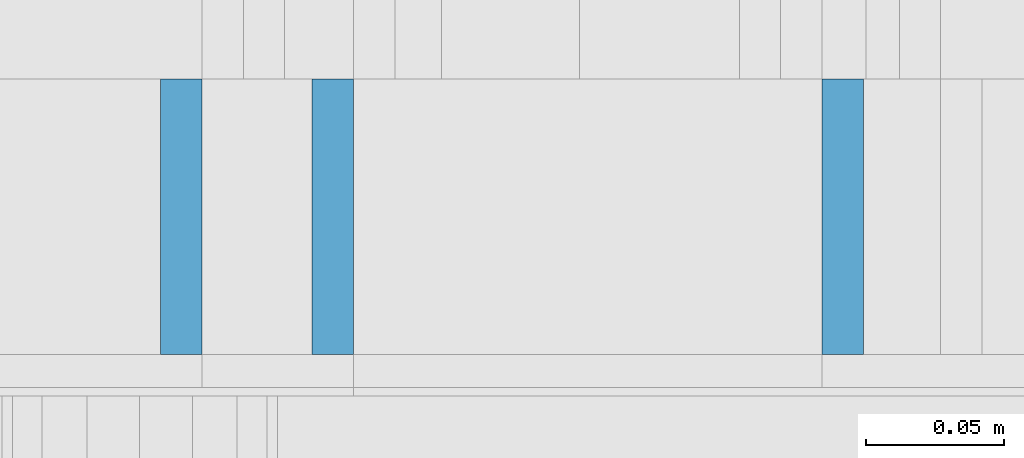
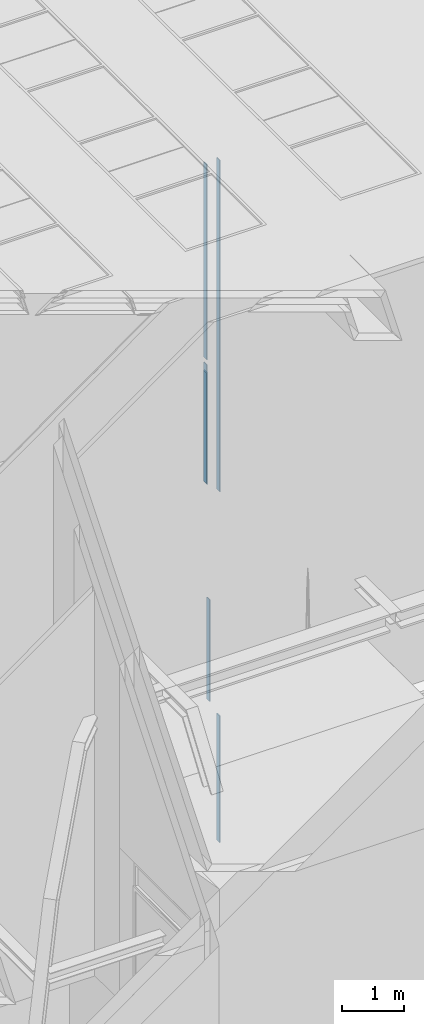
# One storey, part 104 of 583: 7 building element parts, 2 elements without a shape of their own.
"""IFC2X3 building model written with IfcOpenShell, lengths in metres."""

from ifc_helpers import new_model, entity, si_unit, converted_unit, derived_unit, money_unit, direction, frame, frame_2d, origin_with_axes, place, context, subcontext, project, spatial, polyline, rectangle, outline, extrude, material, type_object, element, aggregate, save


model = new_model("IFC2X3")

# Units and contexts
model_context = context("Model", 3, precision=1e-05, world=origin_with_axes(), true_north=direction((0.0, 1.0)))
body_context = subcontext(model_context, "Body", "Model", "MODEL_VIEW", scale=1.0)
ifc_project = project(units=[si_unit("LENGTHUNIT", "METRE"), si_unit("AREAUNIT", "SQUARE_METRE"), si_unit("VOLUMEUNIT", "CUBIC_METRE"), si_unit("ABSORBEDDOSEUNIT", "GRAY"), si_unit("AMOUNTOFSUBSTANCEUNIT", "MOLE"), si_unit("DOSEEQUIVALENTUNIT", "SIEVERT"), si_unit("ELECTRICCAPACITANCEUNIT", "FARAD"), si_unit("ELECTRICCHARGEUNIT", "COULOMB"), si_unit("ELECTRICCONDUCTANCEUNIT", "SIEMENS"), si_unit("ELECTRICCURRENTUNIT", "AMPERE"), si_unit("ELECTRICRESISTANCEUNIT", "OHM"), si_unit("ELECTRICVOLTAGEUNIT", "VOLT"), si_unit("ENERGYUNIT", "JOULE"), si_unit("FORCEUNIT", "NEWTON"), si_unit("FREQUENCYUNIT", "HERTZ"), si_unit("ILLUMINANCEUNIT", "LUX"), si_unit("INDUCTANCEUNIT", "HENRY"), si_unit("LUMINOUSFLUXUNIT", "LUMEN"), si_unit("LUMINOUSINTENSITYUNIT", "CANDELA"), si_unit("MAGNETICFLUXDENSITYUNIT", "TESLA"), si_unit("MAGNETICFLUXUNIT", "WEBER"), si_unit("MASSUNIT", "GRAM"), converted_unit("PLANEANGLEUNIT", "degree", entity("IfcReal", 0.0174532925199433), si_unit("PLANEANGLEUNIT", "RADIAN"), dimensions=[0, 0, 0, 0, 0, 0, 0]), si_unit("POWERUNIT", "WATT"), si_unit("PRESSUREUNIT", "PASCAL"), si_unit("RADIOACTIVITYUNIT", "BECQUEREL"), si_unit("SOLIDANGLEUNIT", "STERADIAN"), si_unit("THERMODYNAMICTEMPERATUREUNIT", "KELVIN"), si_unit("TIMEUNIT", "SECOND"), derived_unit("ACCELERATIONUNIT", [(si_unit("LENGTHUNIT", "METRE"), 1), (si_unit("TIMEUNIT", "SECOND"), -2)]), derived_unit("ANGULARVELOCITYUNIT", [(converted_unit("PLANEANGLEUNIT", "degree", entity("IfcReal", 0.0174532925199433), si_unit("PLANEANGLEUNIT", "RADIAN"), dimensions=[0, 0, 0, 0, 0, 0, 0]), 1), (si_unit("TIMEUNIT", "SECOND"), -1)]), derived_unit("CURVATUREUNIT", [(converted_unit("PLANEANGLEUNIT", "degree", entity("IfcReal", 0.0174532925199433), si_unit("PLANEANGLEUNIT", "RADIAN"), dimensions=[0, 0, 0, 0, 0, 0, 0]), 1), (si_unit("LENGTHUNIT", "METRE"), -1)]), derived_unit("DYNAMICVISCOSITYUNIT", [(si_unit("PRESSUREUNIT", "PASCAL"), 1), (si_unit("TIMEUNIT", "SECOND"), 1)]), derived_unit("HEATFLUXDENSITYUNIT", [(si_unit("POWERUNIT", "WATT"), 1), (si_unit("LENGTHUNIT", "METRE"), -2)]), derived_unit("HEATINGVALUEUNIT", [(si_unit("ENERGYUNIT", "JOULE"), 1), (si_unit("MASSUNIT", "GRAM"), -1)]), derived_unit("INTEGERCOUNTRATEUNIT", [(si_unit("TIMEUNIT", "SECOND"), -1)]), derived_unit("IONCONCENTRATIONUNIT", [(si_unit("MASSUNIT", "GRAM"), 1), (si_unit("VOLUMEUNIT", "CUBIC_METRE"), -1)]), derived_unit("ISOTHERMALMOISTURECAPACITYUNIT", [(si_unit("VOLUMEUNIT", "CUBIC_METRE"), 1), (si_unit("MASSUNIT", "GRAM"), -1)]), derived_unit("KINEMATICVISCOSITYUNIT", [(si_unit("AREAUNIT", "SQUARE_METRE"), 1), (si_unit("TIMEUNIT", "SECOND"), -1)]), derived_unit("LINEARFORCEUNIT", [(si_unit("FORCEUNIT", "NEWTON"), 1), (si_unit("LENGTHUNIT", "METRE"), -1)]), derived_unit("LINEARMOMENTUNIT", [(si_unit("FORCEUNIT", "NEWTON"), 1), (si_unit("LENGTHUNIT", "METRE"), -1)]), derived_unit("LINEARSTIFFNESSUNIT", [(si_unit("FORCEUNIT", "NEWTON"), 1), (si_unit("LENGTHUNIT", "METRE"), -1)]), derived_unit("LINEARVELOCITYUNIT", [(si_unit("LENGTHUNIT", "METRE"), 1), (si_unit("TIMEUNIT", "SECOND"), -1)]), derived_unit("LUMINOUSINTENSITYDISTRIBUTIONUNIT", [(si_unit("LUMINOUSINTENSITYUNIT", "CANDELA"), 1), (si_unit("LUMINOUSFLUXUNIT", "LUMEN"), -1)]), derived_unit("MASSDENSITYUNIT", [(si_unit("MASSUNIT", "GRAM"), 1), (si_unit("VOLUMEUNIT", "CUBIC_METRE"), -1)]), derived_unit("MASSFLOWRATEUNIT", [(si_unit("MASSUNIT", "GRAM"), 1), (si_unit("TIMEUNIT", "SECOND"), -1)]), derived_unit("MASSPERLENGTHUNIT", [(si_unit("MASSUNIT", "GRAM"), 1), (si_unit("LENGTHUNIT", "METRE"), -1)]), derived_unit("MODULUSOFELASTICITYUNIT", [(si_unit("FORCEUNIT", "NEWTON"), 1), (si_unit("AREAUNIT", "SQUARE_METRE"), -1)]), derived_unit("MODULUSOFLINEARSUBGRADEREACTIONUNIT", [(si_unit("FORCEUNIT", "NEWTON"), 1), (si_unit("LENGTHUNIT", "METRE"), -2)]), derived_unit("MODULUSOFROTATIONALSUBGRADEREACTIONUNIT", [(si_unit("FORCEUNIT", "NEWTON"), 1), (si_unit("LENGTHUNIT", "METRE"), 1)]), derived_unit("MODULUSOFSUBGRADEREACTIONUNIT", [(si_unit("FORCEUNIT", "NEWTON"), 1), (si_unit("VOLUMEUNIT", "CUBIC_METRE"), -1)]), derived_unit("MOISTUREDIFFUSIVITYUNIT", [(si_unit("VOLUMEUNIT", "CUBIC_METRE"), 1), (si_unit("TIMEUNIT", "SECOND"), -1)]), derived_unit("MOLECULARWEIGHTUNIT", [(si_unit("MASSUNIT", "GRAM"), 1), (si_unit("AMOUNTOFSUBSTANCEUNIT", "MOLE"), -1)]), derived_unit("PLANARFORCEUNIT", [(si_unit("FORCEUNIT", "NEWTON"), 1), (si_unit("LENGTHUNIT", "METRE"), -2)]), derived_unit("ROTATIONALFREQUENCYUNIT", [(si_unit("TIMEUNIT", "SECOND"), -1)]), derived_unit("ROTATIONALMASSUNIT", [(si_unit("MASSUNIT", "GRAM"), 1), (si_unit("LENGTHUNIT", "METRE"), 2)]), derived_unit("ROTATIONALSTIFFNESSUNIT", [(si_unit("FORCEUNIT", "NEWTON"), 1), (si_unit("LENGTHUNIT", "METRE"), 1), (converted_unit("PLANEANGLEUNIT", "degree", entity("IfcReal", 0.0174532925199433), si_unit("PLANEANGLEUNIT", "RADIAN"), dimensions=[0, 0, 0, 0, 0, 0, 0]), -1)]), derived_unit("SECTIONAREAINTEGRALUNIT", [(si_unit("LENGTHUNIT", "METRE"), 5)]), derived_unit("SECTIONMODULUSUNIT", [(si_unit("LENGTHUNIT", "METRE"), 3)]), derived_unit("SHEARMODULUSUNIT", [(si_unit("FORCEUNIT", "NEWTON"), 1), (si_unit("AREAUNIT", "SQUARE_METRE"), -1)]), derived_unit("SOUNDPOWERUNIT", [(si_unit("ENERGYUNIT", "JOULE"), 1), (si_unit("TIMEUNIT", "SECOND"), -1)]), derived_unit("SPECIFICHEATCAPACITYUNIT", [(si_unit("FORCEUNIT", "NEWTON"), 1), (si_unit("MASSUNIT", "GRAM"), -1), (si_unit("THERMODYNAMICTEMPERATUREUNIT", "KELVIN"), -1)]), derived_unit("TEMPERATUREGRADIENTUNIT", [(si_unit("THERMODYNAMICTEMPERATUREUNIT", "KELVIN"), 1), (si_unit("LENGTHUNIT", "METRE"), -1)]), derived_unit("THERMALADMITTANCEUNIT", [(si_unit("POWERUNIT", "WATT"), 1), (si_unit("AREAUNIT", "SQUARE_METRE"), -1), (si_unit("THERMODYNAMICTEMPERATUREUNIT", "KELVIN"), -1)]), derived_unit("THERMALCONDUCTANCEUNIT", [(si_unit("POWERUNIT", "WATT"), 1), (si_unit("LENGTHUNIT", "METRE"), -1), (si_unit("THERMODYNAMICTEMPERATUREUNIT", "KELVIN"), -1)]), derived_unit("THERMALEXPANSIONCOEFFICIENTUNIT", [(si_unit("THERMODYNAMICTEMPERATUREUNIT", "KELVIN"), -1)]), derived_unit("THERMALRESISTANCEUNIT", [(si_unit("AREAUNIT", "SQUARE_METRE"), 1), (si_unit("POWERUNIT", "WATT"), -1)]), derived_unit("THERMALTRANSMITTANCEUNIT", [(si_unit("POWERUNIT", "WATT"), 1), (si_unit("AREAUNIT", "SQUARE_METRE"), -1), (si_unit("THERMODYNAMICTEMPERATUREUNIT", "KELVIN"), -1)]), derived_unit("TORQUEUNIT", [(si_unit("FORCEUNIT", "NEWTON"), 1), (si_unit("LENGTHUNIT", "METRE"), 1)]), derived_unit("VAPORPERMEABILITYUNIT", [(si_unit("MASSUNIT", "GRAM"), 1), (si_unit("TIMEUNIT", "SECOND"), -1)]), derived_unit("VOLUMETRICFLOWRATEUNIT", [(si_unit("VOLUMEUNIT", "CUBIC_METRE"), 1), (si_unit("TIMEUNIT", "SECOND"), -1)]), derived_unit("WARPINGCONSTANTUNIT", [(si_unit("LENGTHUNIT", "METRE"), 6)]), derived_unit("WARPINGMOMENTUNIT", [(si_unit("FORCEUNIT", "NEWTON"), 1), (si_unit("LENGTHUNIT", "METRE"), 2)]), money_unit("GBP")], contexts=[model_context])

# Site, building, storey
site_placement = place(None, origin_with_axes())
site = spatial("IfcSite", under=ifc_project, at=site_placement, Name="Site", CompositionType="ELEMENT")
building_placement = place(site_placement, origin_with_axes())
building = spatial("IfcBuilding", under=site, at=building_placement, Name="Building01", CompositionType="ELEMENT")
storey_placement = place(building_placement, frame((0.0, 0.0, 20.78), z_axis=(0.0, 0.0, 1.0), x_axis=(1.0, 0.0, 0.0)))
storey = spatial("IfcBuildingStorey", under=building, at=storey_placement, Name="RL", CompositionType="ELEMENT", Elevation=20.78)

# Wall, building element parts
wall_type_1 = type_object("IfcWallType", Name="SHE_A-Walls_Type01c_Partywall_225mm_twin_tall", PredefinedType="NOTDEFINED")
wall_1_placement = place(storey_placement, frame((8.732, 8.64, 5.664), z_axis=(0.0, 1.0, 0.0), x_axis=(0.0, 0.0, -1.0)))
wall_1 = element("IfcWall", 1, at=wall_1_placement, inside=storey, type_object=wall_type_1, Name="1C", ObjectType="SHE_A-Walls_Type01c_Partywall_225mm_twin_tall")
ifc_material = material(Name="A_BSUK_Walls_Timber")
placement_1 = place(wall_1_placement, origin_with_axes())
building_element_part_1 = element("IfcBuildingElementPart", 2, at=placement_1, material=ifc_material, Name="2", context=body_context, shape_type="SweptSolid", body=[
    extrude(outline(polyline([(6.306339, 0.152), (4.132339, 0.152), (4.117339, 0.137), (6.321339, 0.137), (6.306339, 0.152)])), frame((0.0, 0.0, 0.015), z_axis=(0.0, 0.0, 1.0), x_axis=(1.0, 0.0, 0.0)), (0.0, 0.0, 1.0), 0.1),
])
building_element_part_2 = element("IfcBuildingElementPart", 3, at=placement_1, material=ifc_material, Name="7", context=body_context, shape_type="SweptSolid", body=[
    extrude(outline(polyline([(6.546339, -0.088), (0.027, -0.088), (0.027, -0.103), (6.561339, -0.103), (6.546339, -0.088)])), frame((0.0, 0.0, 0.015), z_axis=(0.0, 0.0, 1.0), x_axis=(1.0, 0.0, 0.0)), (0.0, 0.0, 1.0), 0.1),
])
building_element_part_3 = element("IfcBuildingElementPart", 4, at=placement_1, material=ifc_material, Name="8", context=body_context, shape_type="SweptSolid", body=[
    extrude(outline(polyline([(6.306339, 0.152), (4.132339, 0.152), (4.117339, 0.137), (6.321339, 0.137), (6.306339, 0.152)])), frame((0.0, 0.0, 0.015), z_axis=(0.0, 0.0, 1.0), x_axis=(1.0, 0.0, 0.0)), (0.0, 0.0, 1.0), 0.1),
])
building_element_part_4 = element("IfcBuildingElementPart", 5, at=placement_1, material=ifc_material, Name="9", context=body_context, shape_type="SweptSolid", body=[
    extrude(rectangle(XDim=3.845339, YDim=0.015, at=frame_2d((1.949669, 0.1445), x_axis=(-1.0, 0.0))), frame((0.0, 0.0, 0.015), z_axis=(0.0, 0.0, 1.0), x_axis=(1.0, 0.0, 0.0)), (0.0, 0.0, 1.0), 0.1),
])
building_element_part_5 = element("IfcBuildingElementPart", 6, at=placement_1, material=ifc_material, Name="10", context=body_context, shape_type="SweptSolid", body=[
    extrude(outline(polyline([(6.321339, 0.152), (3.967339, 0.152), (3.967339, 0.137), (6.336339, 0.137), (6.321339, 0.152)])), frame((0.0, 0.0, 0.015), z_axis=(0.0, 0.0, 1.0), x_axis=(1.0, 0.0, 0.0)), (0.0, 0.0, 1.0), 0.1),
])
aggregate(wall_1, [building_element_part_1, building_element_part_2, building_element_part_3, building_element_part_4, building_element_part_5])

wall_type_2 = type_object("IfcWallType", Name="SHE_A-Walls_Type03a_BlockworkWall_170mm", PredefinedType="NOTDEFINED")
wall_2_placement = place(storey_placement, frame((8.805, 8.64, -2.795), z_axis=(0.0, 1.0, 0.0), x_axis=(0.0, 0.0, -1.0)))
wall_2 = element("IfcWall", 7, at=wall_2_placement, inside=storey, type_object=wall_type_2, Name="4B", ObjectType="SHE_A-Walls_Type03a_BlockworkWall_170mm")
placement_2 = place(wall_2_placement, origin_with_axes())
building_element_part_6 = element("IfcBuildingElementPart", 8, at=placement_2, material=ifc_material, Name="2", context=body_context, shape_type="SweptSolid", body=[
    extrude(rectangle(XDim=2.0, YDim=0.015, at=frame_2d((1.155, 0.1625), x_axis=(-1.0, 0.0))), frame((0.0, 0.0, 0.015), z_axis=(0.0, 0.0, 1.0), x_axis=(1.0, 0.0, 0.0)), (0.0, 0.0, 1.0), 0.1),
])
building_element_part_7 = element("IfcBuildingElementPart", 9, at=placement_2, material=ifc_material, Name="8", context=body_context, shape_type="SweptSolid", body=[
    extrude(rectangle(XDim=2.494547, YDim=0.015, at=frame_2d((3.749142, -0.0225), x_axis=(-1.0, 0.0))), frame((0.0, 0.0, 0.015), z_axis=(0.0, 0.0, 1.0), x_axis=(1.0, 0.0, 0.0)), (0.0, 0.0, 1.0), 0.1),
])
aggregate(wall_2, [building_element_part_6, building_element_part_7])

save(model, "model.ifc")
